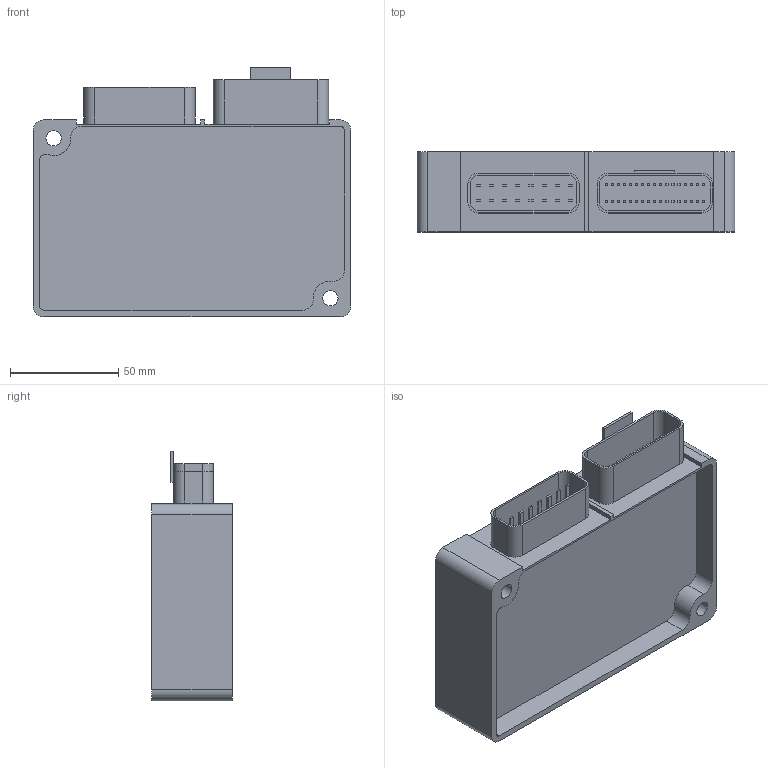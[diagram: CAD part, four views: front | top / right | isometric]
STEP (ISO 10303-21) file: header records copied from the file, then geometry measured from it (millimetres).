
FILE_DESCRIPTION((''),'2;1');
FILE_NAME('164200-1000X_ASM','2020-06-04T',('IB46307'),('YANMAR CO., LTD.'),'PRO/ENGINEER BY PARAMETRIC TECHNOLOGY CORPORATION, 2017170','PRO/ENGINEER BY PARAMETRIC TECHNOLOGY CORPORATION, 2017170','');
FILE_SCHEMA(('CONFIG_CONTROL_DESIGN'));
Length unit declared in the file: millimetre
Products named in the file (3): 164200-1000X; 164200-10XXX-LABEL-LOGO; 164200-1000X_ASM
Assembly tree (2 placements, depth 2):
  164200-1000X_ASM
    164200-1000X
    164200-10XXX-LABEL-LOGO
Bounding box: 147 x 37 x 115.3 mm (x, y, z)
Volume: 368823 mm3; surface area: 62374 mm2
Topology: 7 solids, 9 shells, 589 faces, 1534 edges, 1020 vertices
Faces by surface type: plane 407, extrusion 130, cylinder 48, cone 4
Entity records: 18634 total; most frequent: CARTESIAN_POINT 4471, ORIENTED_EDGE 3052, DIRECTION 2432, EDGE_CURVE 1530, VECTOR 1300, LINE 1170, VERTEX_POINT 1020, EDGE_LOOP 664
